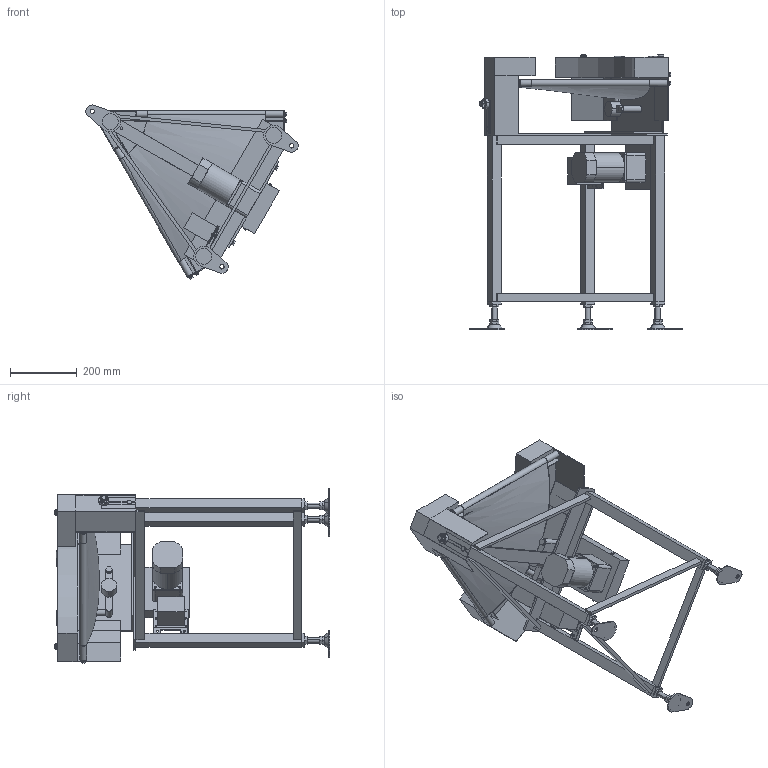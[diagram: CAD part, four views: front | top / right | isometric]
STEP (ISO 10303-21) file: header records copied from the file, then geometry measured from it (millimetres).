
FILE_DESCRIPTION( (''), '2;1');
FILE_NAME ('MMBC3-UD-309-300-60°-R-K-120.stp','2025-02-17T13:49:51',(''),(''),'spGate 20.6.2 (****-****-****-****)','','');
FILE_SCHEMA (('AUTOMOTIVE_DESIGN'));
Length unit declared in the file: millimetre
Products named in the file (39): NewModel; TEMP_X_T-prt0; TEMP_X_T-prt1; TEMP_X_T-prt2; TEMP_X_T-prt3; TEMP_X_T-prt4; TEMP_X_T-prt5; TEMP_X_T-prt6; TEMP_X_T-prt7; TEMP_X_T-prt8; TEMP_X_T-prt9; TEMP_X_T-prt10; TEMP_X_T-prt11; TEMP_X_T-prt12; TEMP_X_T-prt13; TEMP_X_T-prt14; TEMP_X_T-prt15; TEMP_X_T-prt16; TEMP_X_T-prt17; TEMP_X_T-prt18; TEMP_X_T-prt19; TEMP_X_T-prt20; TEMP_X_T-prt21; TEMP_X_T-prt22; TEMP_X_T-prt23; TEMP_X_T-prt24; TEMP_X_T-prt25; TEMP_X_T-prt26; TEMP_X_T-prt27; TEMP_X_T-prt28; TEMP_X_T-prt29; TEMP_X_T-prt30; TEMP_X_T-prt31; TEMP_X_T-prt32; TEMP_X_T-prt33; TEMP_X_T-prt34; TEMP_X_T-prt35; TEMP_X_T-prt36; TEMP_X_T-prt37
Assembly tree (38 placements, depth 2):
  NewModel
    TEMP_X_T-prt0
    TEMP_X_T-prt1
    TEMP_X_T-prt2
    TEMP_X_T-prt3
    TEMP_X_T-prt4
    TEMP_X_T-prt5
    TEMP_X_T-prt6
    TEMP_X_T-prt7
    TEMP_X_T-prt8
    TEMP_X_T-prt9
    TEMP_X_T-prt10
    TEMP_X_T-prt11
    TEMP_X_T-prt12
    TEMP_X_T-prt13
    TEMP_X_T-prt14
    TEMP_X_T-prt15
    TEMP_X_T-prt16
    TEMP_X_T-prt17
    TEMP_X_T-prt18
    TEMP_X_T-prt19
    TEMP_X_T-prt20
    TEMP_X_T-prt21
    TEMP_X_T-prt22
    TEMP_X_T-prt23
    TEMP_X_T-prt24
    TEMP_X_T-prt25
    TEMP_X_T-prt26
    TEMP_X_T-prt27
    TEMP_X_T-prt28
    TEMP_X_T-prt29
    TEMP_X_T-prt30
    TEMP_X_T-prt31
    TEMP_X_T-prt32
    TEMP_X_T-prt33
    TEMP_X_T-prt34
    TEMP_X_T-prt35
    TEMP_X_T-prt36
    TEMP_X_T-prt37
Bounding box: 637.93 x 827.92 x 523.26 mm (x, y, z)
Volume: 12415465.1 mm3; surface area: 2318922.7 mm2
Topology: 38 solids, 38 shells, 1077 faces, 2563 edges, 1654 vertices
Faces by surface type: plane 725, cylinder 267, bspline 81, sphere 4
Entity records: 56868 total; most frequent: CARTESIAN_POINT 10119, ORIENTED_EDGE 5118, DIRECTION 5026, COLOUR_RGB 3674, PRESENTATION_STYLE_ASSIGNMENT 3674, STYLED_ITEM 3674, EDGE_CURVE 2559, DRAUGHTING_PRE_DEFINED_CURVE_FONT 2559
